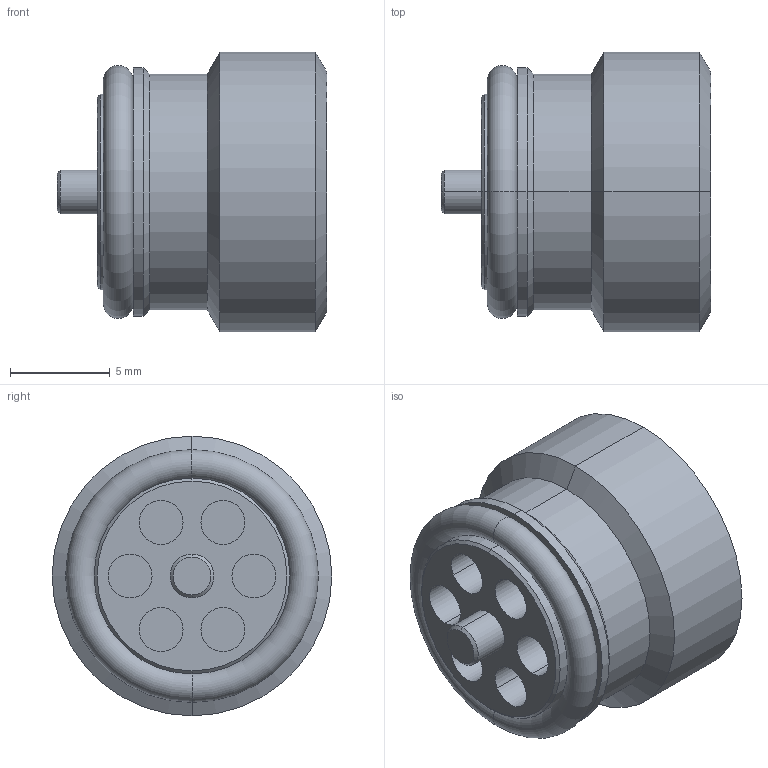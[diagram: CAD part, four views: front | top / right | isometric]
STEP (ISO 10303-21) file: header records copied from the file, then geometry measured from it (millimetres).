
FILE_DESCRIPTION (( 'STEP AP214' ), '1' );
FILE_NAME ('ICSF05-001.STEP', '2024-04-24T11:11:05', ( '' ), ( '' ), 'SwSTEP 2.0', 'SolidWorks 2014', '' );
FILE_SCHEMA (( 'AUTOMOTIVE_DESIGN' ));
Length unit declared in the file: millimetre
Products named in the file (1): ICSF05-001
Bounding box: 13.5 x 14 x 14 mm (x, y, z)
Volume: 1379.5 mm3; surface area: 1037.7 mm2
Topology: 1 solids, 1 shells, 70 faces, 146 edges, 84 vertices
Faces by surface type: cylinder 34, cone 22, plane 12, torus 2
Entity records: 1890 total; most frequent: DIRECTION 362, CARTESIAN_POINT 293, ORIENTED_EDGE 276, AXIS2_PLACEMENT_3D 153, EDGE_CURVE 138, VERTEX_POINT 84, EDGE_LOOP 84, CIRCLE 82
